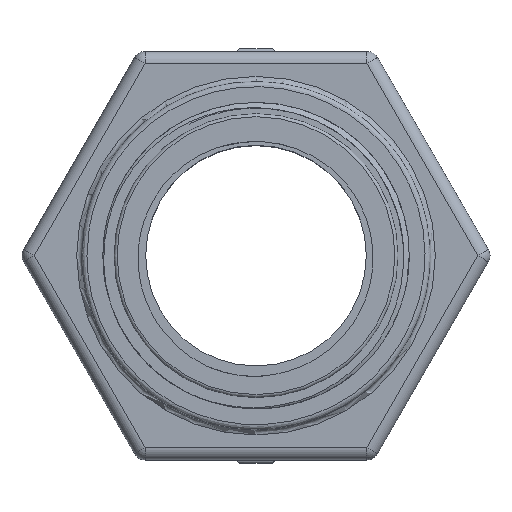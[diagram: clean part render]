
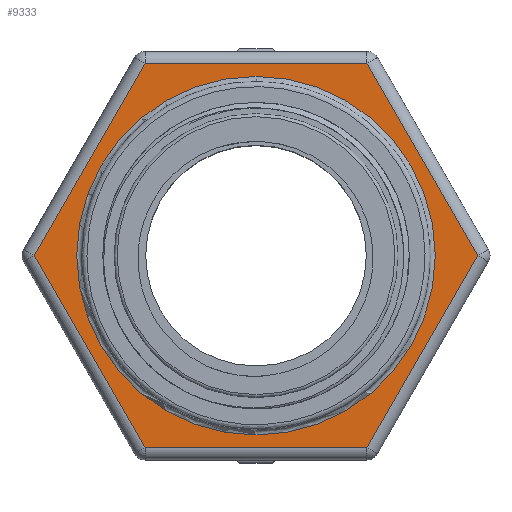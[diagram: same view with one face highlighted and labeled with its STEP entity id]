
A CAD part, top view. The second image highlights one B-rep face of the part: STEP entity #9333.
In plain terms, the highlighted planar face has unit normal (0, 0, 1).
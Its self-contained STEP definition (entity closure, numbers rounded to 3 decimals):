
#795=PLANE('',#82427);
#1213=VECTOR('',#11493,1.);
#1214=VECTOR('',#11494,1.);
#1215=VECTOR('',#11495,1.);
#1216=VECTOR('',#11496,1.);
#1217=VECTOR('',#11497,1.);
#1218=VECTOR('',#11498,1.);
#1653=LINE('',#76930,#1213);
#1654=LINE('',#76933,#1214);
#1655=LINE('',#76935,#1215);
#1656=LINE('',#76937,#1216);
#1657=LINE('',#76939,#1217);
#1658=LINE('',#76941,#1218);
#2984=VERTEX_POINT('',#76928);
#2985=VERTEX_POINT('',#76931);
#2986=VERTEX_POINT('',#76932);
#2987=VERTEX_POINT('',#76934);
#2988=VERTEX_POINT('',#76936);
#2989=VERTEX_POINT('',#76938);
#2990=VERTEX_POINT('',#76940);
#3505=CIRCLE('',#82426,4.458);
#4841=EDGE_CURVE('',#2984,#2984,#3505,.T.);
#4842=EDGE_CURVE('',#2985,#2986,#1653,.T.);
#4843=EDGE_CURVE('',#2987,#2985,#1654,.T.);
#4844=EDGE_CURVE('',#2988,#2987,#1655,.T.);
#4845=EDGE_CURVE('',#2989,#2988,#1656,.T.);
#4846=EDGE_CURVE('',#2990,#2989,#1657,.T.);
#4847=EDGE_CURVE('',#2986,#2990,#1658,.T.);
#7530=ORIENTED_EDGE('',*,*,#4842,.F.);
#7531=ORIENTED_EDGE('',*,*,#4843,.F.);
#7532=ORIENTED_EDGE('',*,*,#4844,.F.);
#7533=ORIENTED_EDGE('',*,*,#4845,.F.);
#7534=ORIENTED_EDGE('',*,*,#4846,.F.);
#7535=ORIENTED_EDGE('',*,*,#4847,.F.);
#7536=ORIENTED_EDGE('',*,*,#4841,.F.);
#8228=EDGE_LOOP('',(#7530,#7531,#7532,#7533,#7534,#7535));
#8229=EDGE_LOOP('',(#7536));
#8801=FACE_BOUND('',#8228,.T.);
#8802=FACE_BOUND('',#8229,.T.);
#9333=ADVANCED_FACE('',(#8801,#8802),#795,.T.);
#11490=DIRECTION('',(0.,0.,1.));
#11491=DIRECTION('',(-4.458,0.,0.));
#11492=DIRECTION('',(0.,0.,1.));
#11493=DIRECTION('',(0.5,-0.866,0.));
#11494=DIRECTION('',(1.,0.,0.));
#11495=DIRECTION('',(0.5,0.866,0.));
#11496=DIRECTION('',(-0.5,0.866,0.));
#11497=DIRECTION('',(-1.,0.,0.));
#11498=DIRECTION('',(-0.5,-0.866,0.));
#76927=CARTESIAN_POINT('',(0.,0.,
1.092));
#76928=CARTESIAN_POINT('',(4.458,0.,1.092));
#76929=CARTESIAN_POINT('',(0.,0.,
1.092));
#76930=CARTESIAN_POINT('',(4.135,2.388,1.092));
#76931=CARTESIAN_POINT('',(2.757,4.775,1.092));
#76932=CARTESIAN_POINT('',(5.514,0.,1.092));
#76933=CARTESIAN_POINT('',(0.,4.775,1.092));
#76934=CARTESIAN_POINT('',(-2.757,4.775,1.092));
#76935=CARTESIAN_POINT('',(-4.135,2.388,1.092));
#76936=CARTESIAN_POINT('',(-5.514,0.,1.092));
#76937=CARTESIAN_POINT('',(-4.135,-2.388,1.092));
#76938=CARTESIAN_POINT('',(-2.757,-4.775,1.092));
#76939=CARTESIAN_POINT('',(0.,-4.775,1.092));
#76940=CARTESIAN_POINT('',(2.757,-4.775,1.092));
#76941=CARTESIAN_POINT('',(4.135,-2.388,1.092));
#82426=AXIS2_PLACEMENT_3D('',#76927,#11490,#11491);
#82427=AXIS2_PLACEMENT_3D('',#76929,#11492,$);
